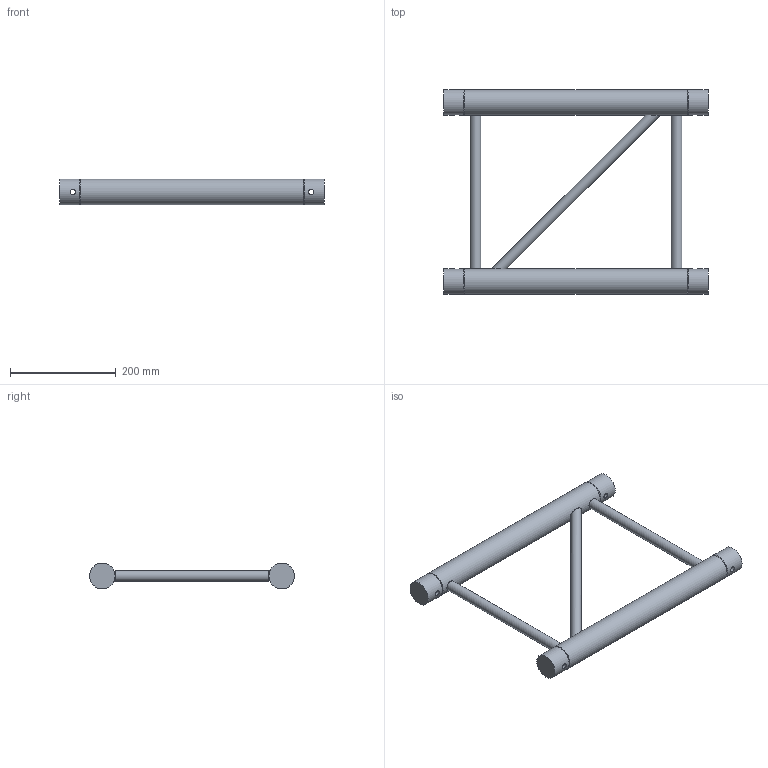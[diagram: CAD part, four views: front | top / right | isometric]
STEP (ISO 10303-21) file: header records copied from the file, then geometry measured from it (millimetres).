
FILE_DESCRIPTION(/* description */ (''),/* implementation_level */ '2;1');
FILE_NAME(/* name */ 'C:\Users\stephan\Desktop\Nieuwe map\H40L\111050144.stp',/* time_stamp */ '2016-09-12T12:49:01+02:00',/* author */ ('Stephan'),/* organization */ (''),/* preprocessor_version */ 'ST-DEVELOPER v15.6',/* originating_system */ 'Autodesk Inventor 2015',/* authorisation */ '');
FILE_SCHEMA (('AUTOMOTIVE_DESIGN { 1 0 10303 214 3 1 1 }'));
Length unit declared in the file: millimetre
Products named in the file (1): 160026979
Bounding box: 500 x 387.3 x 48.3 mm (x, y, z)
Volume: 999470.8 mm3; surface area: 352780.1 mm2
Topology: 5 solids, 7 shells, 49 faces, 86 edges, 55 vertices
Faces by surface type: plane 26, cylinder 19, cone 4
Full cylindrical faces by diameter (mm): 10 x4, 20 x3, 41.8 x4, 42.3 x2, 48.3 x6
Entity records: 1437 total; most frequent: CARTESIAN_POINT 442, DIRECTION 180, ORIENTED_EDGE 124, EDGE_LOOP 92, AXIS2_PLACEMENT_3D 88, EDGE_CURVE 58, VERTEX_POINT 54, STYLED_ITEM 51
